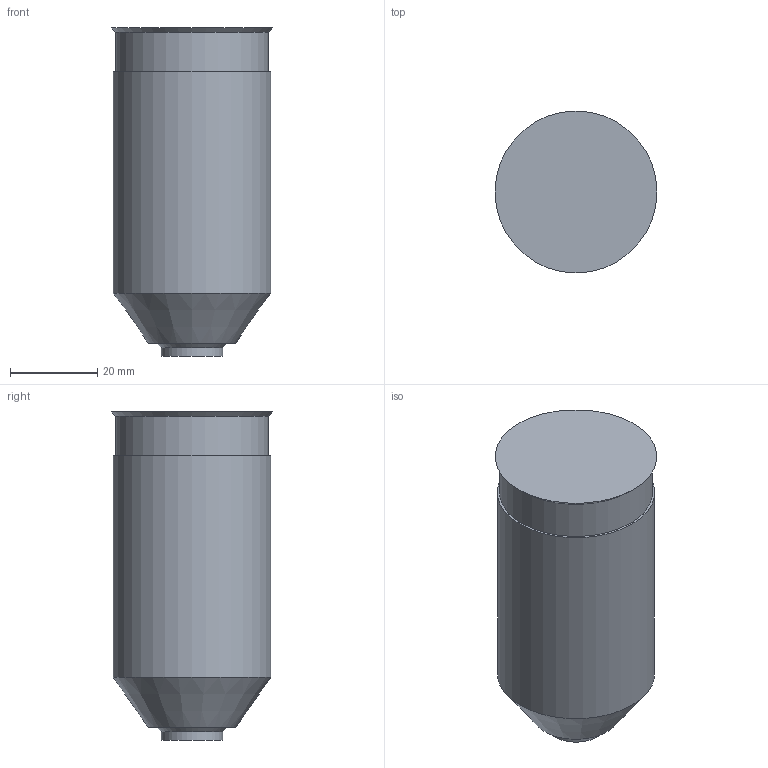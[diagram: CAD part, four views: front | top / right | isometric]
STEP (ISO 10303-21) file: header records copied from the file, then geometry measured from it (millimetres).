
FILE_DESCRIPTION(('STEP AP214'),'1');
FILE_NAME('SEDE IPM400-C.stp','2018-06-13T06:21:23',(' '),(' '),'Spatial InterOp 3D',' ',' ');
FILE_SCHEMA(('AUTOMOTIVE_DESIGN { 1 0 10303 214 1 1 1 1 }'));
Length unit declared in the file: millimetre
Products named in the file (1): 1
Bounding box: 37 x 37 x 75 mm (x, y, z)
Volume: 68955.8 mm3; surface area: 9656.1 mm2
Topology: 1 solids, 1 shells, 10 faces, 15 edges, 9 vertices
Faces by surface type: plane 4, cone 3, cylinder 3
Full cylindrical faces by diameter (mm): 14 x1, 35 x1, 36 x1
Entity records: 291 total; most frequent: DIRECTION 40, CARTESIAN_POINT 29, AXIS2_PLACEMENT_3D 20, EDGE_LOOP 18, ORIENTED_EDGE 18, FACE_OUTER_BOUND 13, STYLED_ITEM 10, PRESENTATION_STYLE_ASSIGNMENT 10
